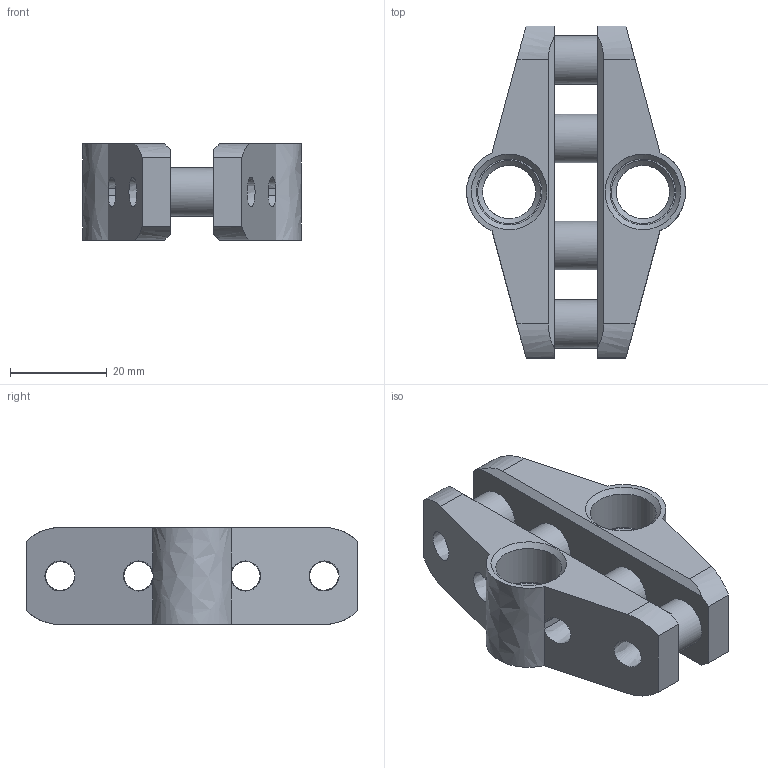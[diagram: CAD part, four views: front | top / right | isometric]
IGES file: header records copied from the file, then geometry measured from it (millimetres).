
Global section: file name: JAL- Samsung S5 Earbud Holder; native system: unknown; preprocessor: unknown; author: jal741; organization: unknown; date: 20190324.183652; units: millimetre
Bounding box: 45.2 x 68.53 x 20 mm (x, y, z)
Volume: 24385.1 mm3; surface area: 12405.1 mm2
Topology: 1 solids, 1 shells, 47 faces, 127 edges, 82 vertices
Faces by surface type: bspline 47
